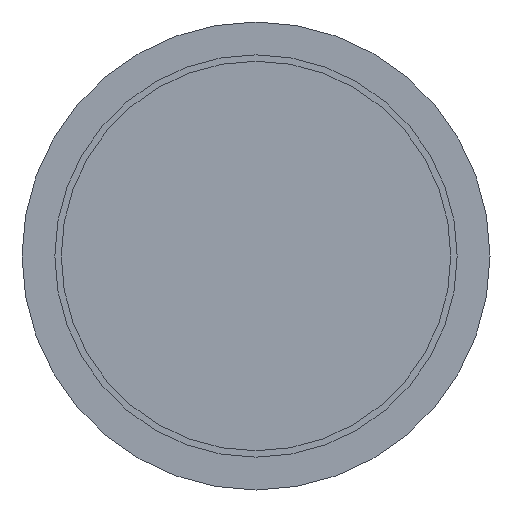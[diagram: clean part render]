
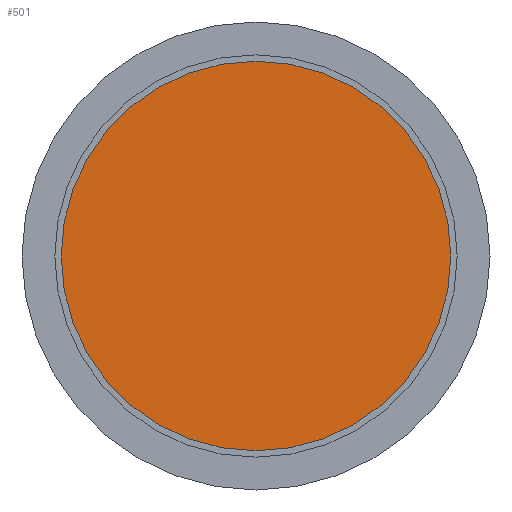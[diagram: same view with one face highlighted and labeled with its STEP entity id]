
A CAD part, front view. The second image highlights one B-rep face of the part: STEP entity #501.
In plain terms, the highlighted planar face has unit normal (0, -1, 0).
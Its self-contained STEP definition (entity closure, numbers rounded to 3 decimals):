
#7 = AXIS2_PLACEMENT_3D ( 'NONE', #182, #95, #561 ) ;
#64 = VERTEX_POINT ( 'NONE', #227 ) ;
#77 = EDGE_CURVE ( 'NONE', #64, #187, #237, .T. ) ;
#95 = DIRECTION ( 'NONE',  ( 0., -1., 0. ) ) ;
#126 = EDGE_CURVE ( 'NONE', #187, #64, #556, .T. ) ;
#145 = EDGE_LOOP ( 'NONE', ( #365, #576 ) ) ;
#152 = FACE_OUTER_BOUND ( 'NONE', #145, .T. ) ;
#165 = DIRECTION ( 'NONE',  ( 0., -1., 0. ) ) ;
#182 = CARTESIAN_POINT ( 'NONE',  ( 0., 0., 0. ) ) ;
#187 = VERTEX_POINT ( 'NONE', #279 ) ;
#227 = CARTESIAN_POINT ( 'NONE',  ( 0., 0., 154. ) ) ;
#237 = CIRCLE ( 'NONE', #345, 154. ) ;
#273 = CARTESIAN_POINT ( 'NONE',  ( 0., 0., 0. ) ) ;
#279 = CARTESIAN_POINT ( 'NONE',  ( 0., 0., -154. ) ) ;
#325 = DIRECTION ( 'NONE',  ( 0., 0., 1. ) ) ;
#345 = AXIS2_PLACEMENT_3D ( 'NONE', #273, #165, #460 ) ;
#365 = ORIENTED_EDGE ( 'NONE', *, *, #126, .T. ) ;
#406 = DIRECTION ( 'NONE',  ( 0., 1., 0. ) ) ;
#410 = PLANE ( 'NONE',  #532 ) ;
#460 = DIRECTION ( 'NONE',  ( 0., 0., -1. ) ) ;
#501 = ADVANCED_FACE ( 'NONE', ( #152 ), #410, .F. ) ;
#532 = AXIS2_PLACEMENT_3D ( 'NONE', #546, #406, #325 ) ;
#546 = CARTESIAN_POINT ( 'NONE',  ( 0., 0., 154. ) ) ;
#556 = CIRCLE ( 'NONE', #7, 154. ) ;
#561 = DIRECTION ( 'NONE',  ( 0., 0., -1. ) ) ;
#576 = ORIENTED_EDGE ( 'NONE', *, *, #77, .T. ) ;
